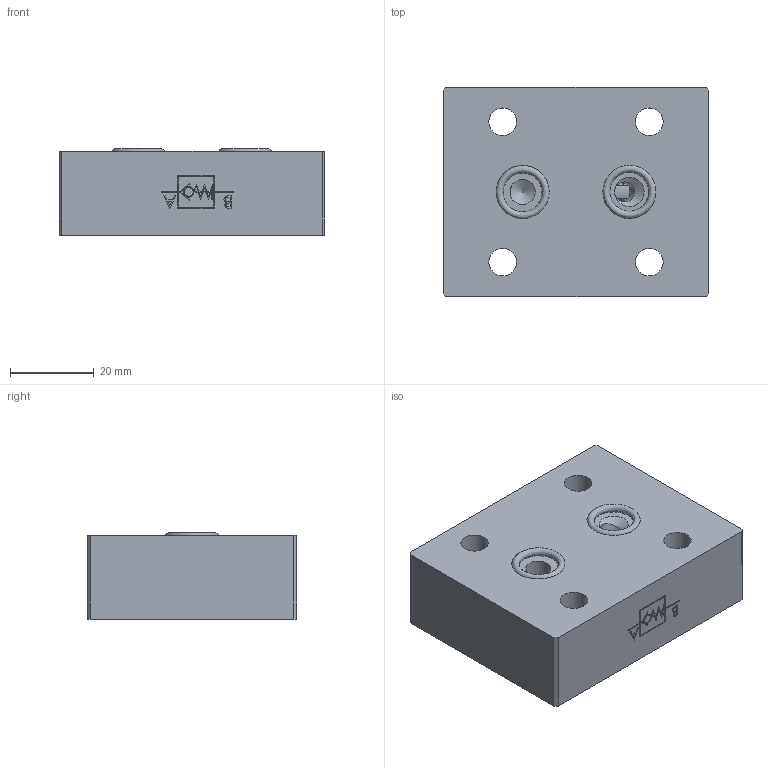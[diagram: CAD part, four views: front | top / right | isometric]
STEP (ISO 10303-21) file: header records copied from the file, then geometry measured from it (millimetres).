
FILE_DESCRIPTION (( 'STEP AP214' ), '1' );
FILE_NAME ('280-6-14.STEP', '2025-10-02T07:26:55', ( '' ), ( '' ), 'SwSTEP 2.0', 'SolidWorks 2025', '' );
FILE_SCHEMA (( 'AUTOMOTIVE_DESIGN' ));
Length unit declared in the file: millimetre
Products named in the file (8): CORPO VALVOLA 280-6.001.00-14; OR 2043; GUIDA SFERA 260-6.011.00-14; MOLLA CILINDRICA 260-6.009.00-14_COMPRESSA; OR 2037; SFERA 9-32 POLLICE (7.143mm)_7,144 (9|32"); TAPPO 280-5.021.00.1-14; 280-6-14
Assembly tree (8 placements, depth 2):
  280-6-14
    CORPO VALVOLA 280-6.001.00-14
    OR 2037  x2
    OR 2043
    TAPPO 280-5.021.00.1-14
    GUIDA SFERA 260-6.011.00-14
    MOLLA CILINDRICA 260-6.009.00-14_COMPRESSA
    SFERA 9-32 POLLICE (7.143mm)_7,144 (9|32")
Bounding box: 63.5 x 50 x 20.6 mm (x, y, z)
Volume: 57104.4 mm3; surface area: 18288.4 mm2
Topology: 8 solids, 8 shells, 682 faces, 1751 edges, 1136 vertices
Faces by surface type: plane 419, bspline 117, cone 72, cylinder 72, torus 1, sphere 1
Full cylindrical faces by diameter (mm): 2.05 x1, 2.5 x1, 4 x1, 4.8 x1, 5.2 x2, 5.5 x1, 6 x1, 6.6 x4, 11 x4, 11.3 x1, 11.6 x1, 11.65 x1, 12.7 x2, 17 x1, 18 x1
Entity records: 33902 total; most frequent: CARTESIAN_POINT 18368, ORIENTED_EDGE 3298, DIRECTION 2679, EDGE_CURVE 1649, VERTEX_POINT 1120, VECTOR 1107, LINE 1107, EDGE_LOOP 849
